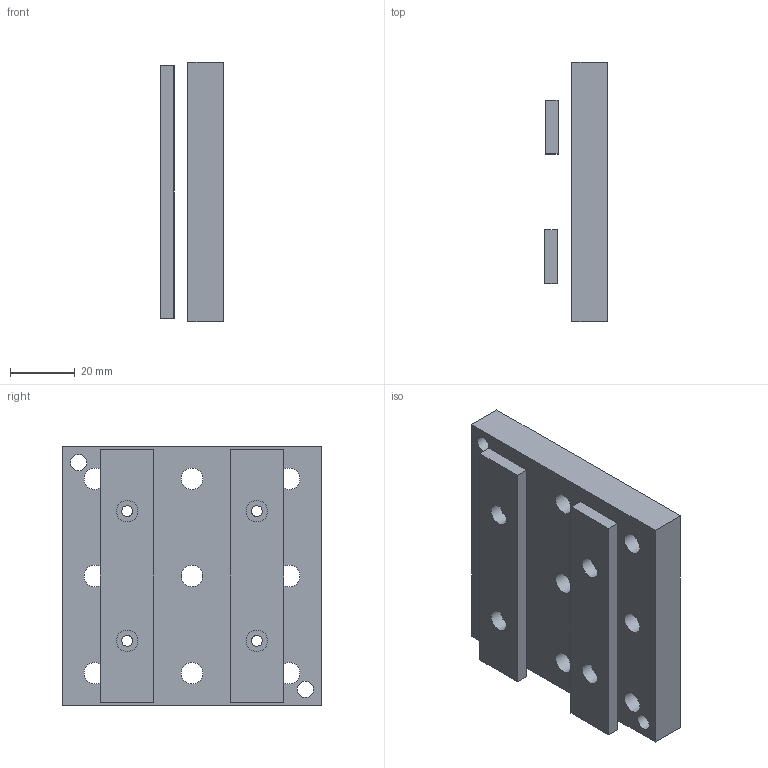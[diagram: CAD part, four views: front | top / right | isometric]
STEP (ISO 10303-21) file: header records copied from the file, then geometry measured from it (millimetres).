
FILE_DESCRIPTION(/* description */ ('Inserto filett. 2 fori L=80'),/* implementation_level */ '2;1');
FILE_NAME(/* name */ 'Z:\70_UFFICIO_TECNICO\A_Componenti_Meccanici\01_Disegni_Step-Iges-Rhino\SEMPLIFICATI\PAL010811.stp',/* time_stamp */ '2019-05-21T11:18:36+02:00',/* author */ ('Utente'),/* organization */ (''),/* preprocessor_version */ 'ST-DEVELOPER v16.13',/* originating_system */ 'Autodesk Inventor 2018',/* authorisation */ '');
FILE_SCHEMA (('AUTOMOTIVE_DESIGN { 1 0 10303 214 3 1 1 }'));
Length unit declared in the file: millimetre
Products named in the file (3): PAL010811; FIL021880; PSC808011
Assembly tree (3 placements, depth 2):
  PAL010811
    FIL021880  x2
    PSC808011
Bounding box: 19.43 x 80 x 80 mm (x, y, z)
Volume: 75873.9 mm3; surface area: 25143.6 mm2
Topology: 3 solids, 3 shells, 37 faces, 112 edges, 81 vertices
Faces by surface type: cylinder 19, plane 18
Full cylindrical faces by diameter (mm): 3.4 x4, 5 x2, 6.647 x13
Entity records: 1011 total; most frequent: DIRECTION 162, CARTESIAN_POINT 143, ORIENTED_EDGE 116, EDGE_LOOP 80, AXIS2_PLACEMENT_3D 69, EDGE_CURVE 58, FACE_BOUND 51, VERTEX_POINT 50
